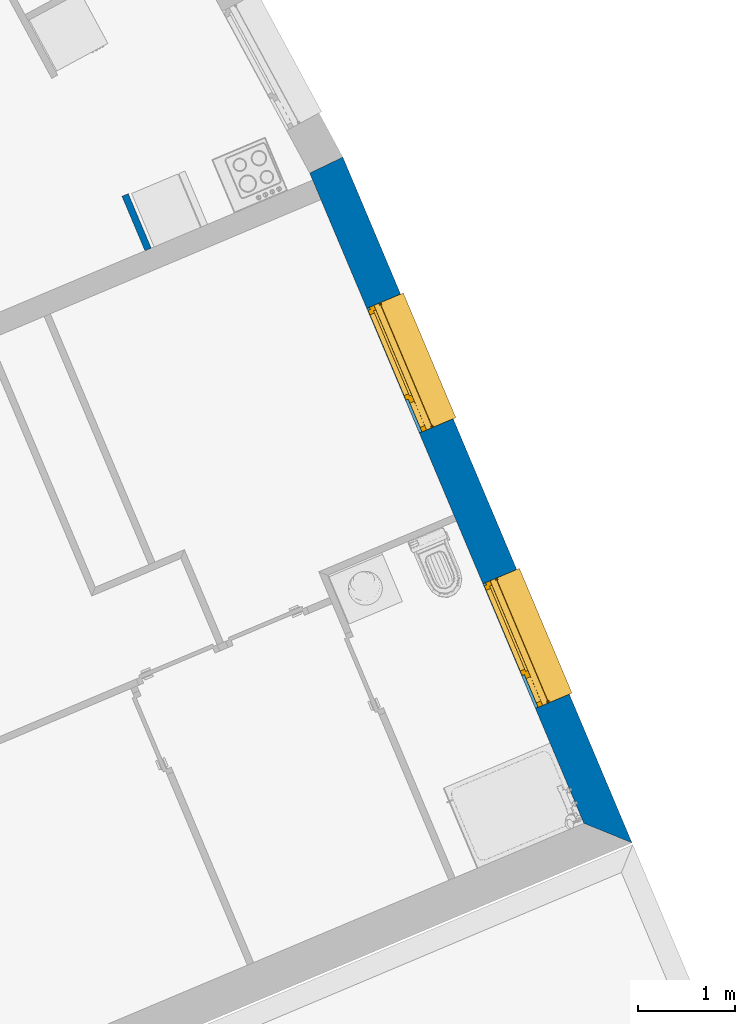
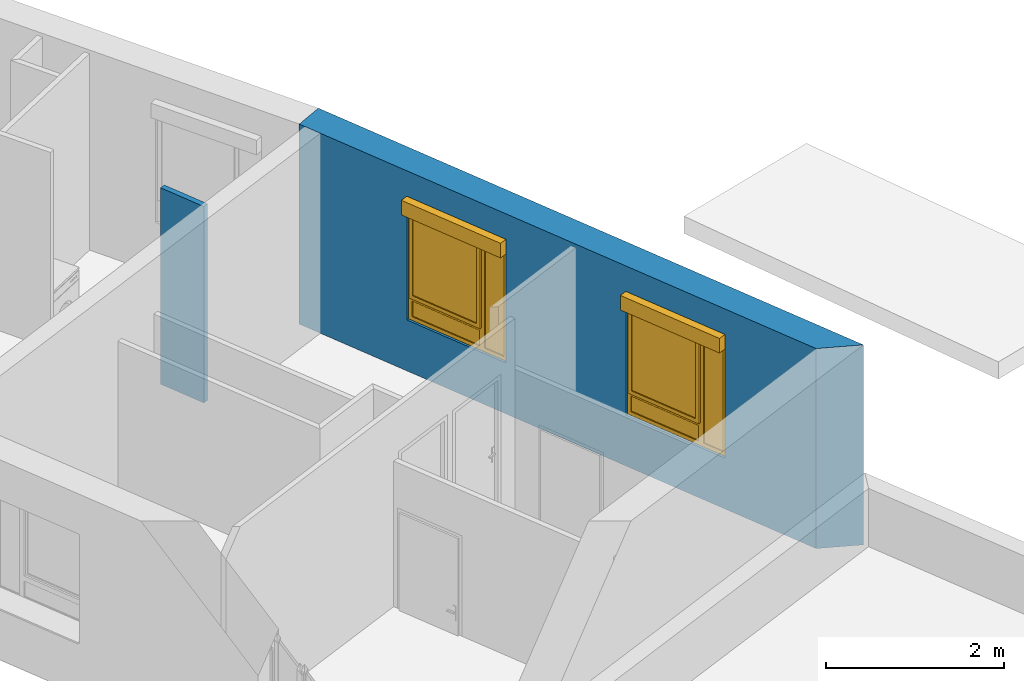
# One storey, part 55 of 121: 2 walls, 2 windows, 2 openings.
"""IFC2X3 building model written with IfcOpenShell, lengths in metres."""

from ifc_helpers import new_model, entity, si_unit, converted_unit, derived_unit, money_unit, direction, frame, origin_with_axes, place, context, subcontext, project, spatial, polyline, outline, extrude, open_shell, faceted_brep, surface_model, source, transform, mapped, material, layer, layer_set, layer_usage, type_object, element, fill, save


model = new_model("IFC2X3")

# Units and contexts
model_context = context("Model", 3, precision=1e-05, world=origin_with_axes(), true_north=direction((0.0, 1.0)))
body_context = subcontext(model_context, "Body", "Model", "MODEL_VIEW")
ifc_project = project(units=[si_unit("LENGTHUNIT", "METRE"), si_unit("AREAUNIT", "SQUARE_METRE"), si_unit("VOLUMEUNIT", "CUBIC_METRE"), converted_unit("PLANEANGLEUNIT", "DEGREE", entity("IfcPlaneAngleMeasure", 0.0174532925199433), si_unit("PLANEANGLEUNIT", "RADIAN"), dimensions=[0, 0, 0, 0, 0, 0, 0]), money_unit("CHF"), converted_unit("TIMEUNIT", "Year", entity("IfcTimeMeasure", 31557600.0), si_unit("TIMEUNIT", "SECOND"), dimensions=[0, 0, 1, 0, 0, 0, 0]), si_unit("MASSUNIT", "GRAM", prefix="KILO"), si_unit("THERMODYNAMICTEMPERATUREUNIT", "DEGREE_CELSIUS"), si_unit("LUMINOUSINTENSITYUNIT", "LUMEN"), si_unit("ENERGYUNIT", "JOULE", prefix="MEGA"), derived_unit("THERMALCONDUCTANCEUNIT", [(si_unit("POWERUNIT", "WATT"), 1), (si_unit("LENGTHUNIT", "METRE"), -1), (si_unit("THERMODYNAMICTEMPERATUREUNIT", "KELVIN"), -1)]), derived_unit("SPECIFICHEATCAPACITYUNIT", [(si_unit("ENERGYUNIT", "JOULE"), 1), (si_unit("MASSUNIT", "GRAM", prefix="KILO"), -1), (si_unit("THERMODYNAMICTEMPERATUREUNIT", "KELVIN"), -1)]), derived_unit("MASSDENSITYUNIT", [(si_unit("MASSUNIT", "GRAM", prefix="KILO"), 1), (si_unit("VOLUMEUNIT", "CUBIC_METRE"), -1)])], contexts=[model_context])

# Site, building, storey
site_placement = place(None, origin_with_axes())
site = spatial("IfcSite", under=ifc_project, at=site_placement, Name="Site", CompositionType="ELEMENT")
building_placement = place(site_placement, origin_with_axes())
building = spatial("IfcBuilding", under=site, at=building_placement, Name="Bâtiment", CompositionType="ELEMENT")
storey_placement = place(building_placement, frame((0.0, 0.0, 2.75), z_axis=(0.0, 0.0, 1.0), x_axis=(1.0, 0.0, 0.0)))
storey = spatial("IfcBuildingStorey", under=building, at=storey_placement, Name="Etage 1", CompositionType="ELEMENT", Elevation=2.75)

# Wall
ifc_material_1 = material(Name="Hachure solide 268963992")
ifc_layer_1 = layer(ifc_material_1, 0.07, ventilated="UNKNOWN")
ifc_layer_set_1 = layer_set([ifc_layer_1], Name="Cloison 70 0826278243")
ifc_layer_usage_1 = layer_usage(ifc_layer_set_1, "AXIS2", "NEGATIVE", 0.0)
wall_type_1 = type_object("IfcWallType", Name="Cloison 70 0826278243 70", PredefinedType="NOTDEFINED")
wall_1_placement = place(storey_placement, frame((9565.134494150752, -1035.62117375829, 57.7), z_axis=(0.0, 0.0, 1.0), x_axis=(0.3885669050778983, -0.9214205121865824, 0.0)))
element("IfcWallStandardCase", 1, at=wall_1_placement, inside=storey, type_object=wall_type_1, material=ifc_layer_usage_1, Name="Mur-149", context=body_context, shape_type="SweptSolid", body=[
    extrude(outline(polyline([(0.0, -0.06999999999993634), (0.6120429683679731, -0.06999999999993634), (0.6120429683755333, 0.0), (0.0, 0.0), (0.0, -0.06999999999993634)])), origin_with_axes(), (0.0, 0.0, 1.0), 2.7),
])

# Wall, openings, windows
ifc_material_2 = material(Name="Parpaing 312445824")
ifc_layer_2 = layer(ifc_material_2, 0.22, ventilated="UNKNOWN")
ifc_material_3 = material(Name="Isolant styromousse 301821074")
ifc_layer_3 = layer(ifc_material_3, 0.16, ventilated="UNKNOWN")
ifc_layer_set_2 = layer_set([ifc_layer_2, ifc_layer_3], Name="isol int 22+16 0836643197")
ifc_layer_usage_2 = layer_usage(ifc_layer_set_2, "AXIS2", "NEGATIVE", 0.0)
wall_type_2 = type_object("IfcWallType", Name="isol int 22+16 0836643197 380", PredefinedType="NOTDEFINED")
wall_2_placement = place(storey_placement, frame((9567.355218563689, -1035.243268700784, 57.7), z_axis=(0.0, 0.0, 1.0), x_axis=(0.3885669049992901, -0.9214205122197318, 0.0)))
wall_2 = element("IfcWallStandardCase", 2, at=wall_2_placement, inside=storey, type_object=wall_type_2, material=ifc_layer_usage_2, Name="Mur-113", context=body_context, shape_type="SweptSolid", body=[
    extrude(outline(polyline([(0.01830169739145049, -0.3799999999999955), (7.320677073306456, -0.3799999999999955), (7.700677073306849, 0.0), (0.0, 0.0), (0.01830169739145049, -0.3799999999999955)])), origin_with_axes(), (0.0, 0.0, 1.0), 2.75),
])
opening_1_placement = place(wall_2_placement, frame((2.238127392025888, 0.0, 0.7000000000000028), z_axis=(0.0, 0.0, 1.0), x_axis=(1.0, 0.0, 0.0)))
opening_1 = element("IfcOpeningElement", 3, at=opening_1_placement, cuts=wall_2, Name="Fen-045", context=body_context, shape_type="Brep", body=[
    faceted_brep([(-0.6999999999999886, -0.2199999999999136, 1.5), (0.7000000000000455, -0.2199999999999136, 1.5), (0.7000000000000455, 2.758100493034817, 1.5), (-0.6999999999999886, 2.758100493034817, 1.5), (-0.6999999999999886, -0.2199999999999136, 1.700000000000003), (0.7000000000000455, -0.2199999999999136, 1.700000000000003), (0.6999999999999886, -0.3000000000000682, 1.5), (0.6999999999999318, -0.3000000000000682, 0.0), (0.7000000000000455, 2.758100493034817, 0.0), (-0.6999999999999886, 2.758100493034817, 0.0), (-0.6999999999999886, -0.2999999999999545, 1.5), (-0.6999999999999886, -0.2999999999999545, 0.0), (-0.7000000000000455, -0.4799999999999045, 1.5), (-0.7000000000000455, -0.4799999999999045, 1.700000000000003), (0.6999999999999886, -0.4799999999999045, 1.700000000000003), (0.6999999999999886, -0.4799999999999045, 1.5), (0.6999999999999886, -3.138100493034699, 1.5), (0.6999999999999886, -3.138100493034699, 0.0), (-0.6999999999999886, -3.138100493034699, 0.0), (-0.6999999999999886, -3.138100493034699, 1.5)], [[[0, 1, 2, 3]], [[1, 0, 4, 5]], [[1, 6, 7, 8, 2]], [[2, 8, 9, 3]], [[10, 0, 3, 9, 11]], [[0, 10, 12, 13, 4]], [[14, 5, 4, 13]], [[6, 1, 5, 14, 15]], [[6, 15, 16, 17, 7]], [[7, 11, 9, 8]], [[12, 10, 11, 18, 19]], [[12, 15, 14, 13]], [[15, 12, 19, 16]], [[19, 18, 17, 16]], [[11, 7, 17, 18]]]),
])
opening_2_placement = place(wall_2_placement, frame((5.33116423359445, 0.0, 0.7000000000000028), z_axis=(0.0, 0.0, 1.0), x_axis=(1.0, 0.0, 0.0)))
opening_2 = element("IfcOpeningElement", 4, at=opening_2_placement, cuts=wall_2, Name="Fen-045", context=body_context, shape_type="Brep", body=[
    faceted_brep([(-0.6999999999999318, -0.2199999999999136, 1.5), (0.6999999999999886, -0.2199999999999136, 1.5), (0.7000000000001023, 2.758100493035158, 1.5), (-0.6999999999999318, 2.758100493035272, 1.5), (-0.6999999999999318, -0.2199999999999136, 1.700000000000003), (0.6999999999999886, -0.2199999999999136, 1.700000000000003), (0.6999999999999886, -0.2999999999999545, 1.5), (0.6999999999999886, -0.2999999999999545, 0.0), (0.7000000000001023, 2.758100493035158, 0.0), (-0.6999999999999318, 2.758100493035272, 0.0), (-0.6999999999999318, -0.2999999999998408, 1.5), (-0.6999999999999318, -0.2999999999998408, 0.0), (-0.6999999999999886, -0.4799999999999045, 1.5), (-0.6999999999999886, -0.4799999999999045, 1.700000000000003), (0.6999999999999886, -0.4800000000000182, 1.700000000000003), (0.6999999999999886, -0.4800000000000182, 1.5), (0.6999999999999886, -3.138100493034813, 1.5), (0.6999999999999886, -3.138100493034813, 0.0), (-0.6999999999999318, -3.138100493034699, 0.0), (-0.6999999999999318, -3.138100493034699, 1.5)], [[[0, 1, 2, 3]], [[1, 0, 4, 5]], [[1, 6, 7, 8, 2]], [[2, 8, 9, 3]], [[10, 0, 3, 9, 11]], [[0, 10, 12, 13, 4]], [[14, 5, 4, 13]], [[6, 1, 5, 14, 15]], [[6, 15, 16, 17, 7]], [[7, 11, 9, 8]], [[12, 10, 11, 18, 19]], [[12, 15, 14, 13]], [[15, 12, 19, 16]], [[19, 18, 17, 16]], [[11, 7, 17, 18]]]),
])
window_style = type_object("IfcWindowStyle", Name="Fenêtre variable 27", ConstructionType="NOTDEFINED", OperationType="TRIPLE_PANEL_LEFT", ParameterTakesPrecedence=False, Sizeable=False)
shared_shape = source(origin_with_axes(), body_context, "Body", "SurfaceModel", [
    surface_model("IfcShellBasedSurfaceModel", [(0.7, -0.05100000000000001, 0.05), (-0.7, -0.05100000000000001, 0.05000000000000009), (-0.7, -0.05100000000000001, 0.04000000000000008), (0.7, -0.05100000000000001, 0.04), (-0.7, -0.3799999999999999, 0.02900000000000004), (0.7, -0.3799999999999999, 0.02899999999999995), (-0.7, -0.3799999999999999, 0.00900000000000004), (0.7, -0.3799999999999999, 0.008999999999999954), (-0.7, -0.3699999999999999, 0.01900000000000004), (0.7, -0.3699999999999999, 0.01899999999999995)], [open_shell([[[0, 1, 2, 3]], [[3, 2, 4, 5]], [[5, 4, 6, 7]], [[7, 6, 8, 9]]])]),
    faceted_brep([(0.7, -0.13, 1.7), (0.7, 0.13, 1.7), (0.697, 0.13, 1.7), (0.697, -0.13, 1.7), (0.7, -0.13, 1.5), (0.7, 0.13, 1.5), (0.697, 0.13, 1.5), (0.697, -0.13, 1.5)], [[[0, 1, 2, 3]], [[0, 4, 5, 1]], [[1, 5, 6, 2]], [[3, 2, 6, 7]], [[4, 0, 3, 7]], [[5, 4, 7, 6]]]),
    faceted_brep([(-0.6970000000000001, -0.1299999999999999, 1.7), (-0.6970000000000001, 0.1300000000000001, 1.7), (-0.7000000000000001, 0.1300000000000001, 1.7), (-0.7000000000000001, -0.1299999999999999, 1.7), (-0.6970000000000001, -0.1299999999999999, 1.5), (-0.6970000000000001, 0.1300000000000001, 1.5), (-0.7000000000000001, 0.1300000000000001, 1.5), (-0.7000000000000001, -0.1299999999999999, 1.5)], [[[0, 1, 2, 3]], [[0, 4, 5, 1]], [[1, 5, 6, 2]], [[3, 2, 6, 7]], [[4, 0, 3, 7]], [[5, 4, 7, 6]]]),
    faceted_brep([(0.697, -0.13, 1.5), (0.697, -0.13, 1.7), (-0.697, -0.1299999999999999, 1.7), (-0.697, -0.1299999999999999, 1.5), (0.697, -0.127, 1.5), (0.697, -0.127, 1.697), (0.697, 0.127, 1.697), (0.697, 0.127, 1.503), (0.697, -0.108, 1.503), (0.697, -0.108, 1.5), (0.697, 0.13, 1.5), (0.697, 0.13, 1.7), (-0.697, 0.1300000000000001, 1.7), (-0.697, 0.1300000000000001, 1.5), (-0.697, -0.1079999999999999, 1.5), (-0.697, -0.1079999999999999, 1.503), (-0.697, 0.1270000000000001, 1.503), (-0.697, 0.1270000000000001, 1.697), (-0.697, -0.1269999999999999, 1.697), (-0.697, -0.1269999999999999, 1.5)], [[[0, 1, 2, 3]], [[0, 4, 5, 6, 7, 8, 9, 10, 11, 1]], [[1, 11, 12, 2]], [[3, 2, 12, 13, 14, 15, 16, 17, 18, 19]], [[4, 0, 3, 19]], [[5, 4, 19, 18]], [[6, 5, 18, 17]], [[7, 6, 17, 16]], [[8, 7, 16, 15]], [[9, 8, 15, 14]], [[10, 9, 14, 13]], [[11, 10, 13, 12]]]),
    faceted_brep([(0.694, -0.08075423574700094, 1.585760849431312), (0.694, -0.07705479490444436, 1.571954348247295), (0.694, -0.07101408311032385, 1.559), (0.694, -0.06281564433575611, 1.547291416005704), (0.694, -0.05270858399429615, 1.537184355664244), (0.694, -0.04099999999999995, 1.528985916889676), (0.694, -0.02804565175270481, 1.522945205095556), (0.694, -0.01423915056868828, 1.519245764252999), (0.694, 0.0, 1.518), (0.694, 0.01423915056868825, 1.519245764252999), (0.694, 0.02804565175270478, 1.522945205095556), (0.694, 0.04099999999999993, 1.528985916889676), (0.694, 0.05270858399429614, 1.537184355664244), (0.694, 0.06281564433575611, 1.547291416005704), (0.694, 0.07101408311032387, 1.559), (0.694, 0.07705479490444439, 1.571954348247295), (0.694, 0.08075423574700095, 1.585760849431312), (0.694, 0.0819999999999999, 1.6), (0.694, 0.08075423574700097, 1.614239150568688), (0.694, 0.0770547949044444, 1.628045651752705), (0.694, 0.07101408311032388, 1.641), (0.694, 0.06281564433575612, 1.652708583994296), (0.694, 0.05270858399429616, 1.662815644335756), (0.694, 0.04099999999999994, 1.671014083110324), (0.694, 0.02804565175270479, 1.677054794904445), (0.694, 0.01423915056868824, 1.680754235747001), (0.694, 0.0, 1.682), (0.694, -0.01423915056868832, 1.680754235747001), (0.694, -0.02804565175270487, 1.677054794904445), (0.694, -0.04100000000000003, 1.671014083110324), (0.694, -0.05270858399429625, 1.662815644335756), (0.694, -0.06281564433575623, 1.652708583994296), (0.694, -0.07101408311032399, 1.641), (0.694, -0.07705479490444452, 1.628045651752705), (0.694, -0.0807542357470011, 1.614239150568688), (0.694, -0.08200000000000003, 1.6), (-0.694, -0.08075423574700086, 1.585760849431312), (-0.694, -0.07705479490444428, 1.571954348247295), (-0.694, -0.07101408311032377, 1.559), (-0.694, -0.06281564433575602, 1.547291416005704), (-0.694, -0.05270858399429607, 1.537184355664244), (-0.694, -0.04099999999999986, 1.528985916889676), (-0.694, -0.02804565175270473, 1.522945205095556), (-0.694, -0.0142391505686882, 1.519245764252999), (-0.694, 0.0, 1.518), (-0.694, 0.01423915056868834, 1.519245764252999), (-0.694, 0.02804565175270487, 1.522945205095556), (-0.694, 0.04100000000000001, 1.528985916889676), (-0.694, 0.05270858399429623, 1.537184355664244), (-0.694, 0.06281564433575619, 1.547291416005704), (-0.694, 0.07101408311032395, 1.559), (-0.694, 0.07705479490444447, 1.571954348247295), (-0.694, 0.08075423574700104, 1.585760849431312), (-0.694, 0.08199999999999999, 1.6), (-0.694, 0.08075423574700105, 1.614239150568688), (-0.694, 0.07705479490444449, 1.628045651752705), (-0.694, 0.07101408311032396, 1.641), (-0.694, 0.0628156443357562, 1.652708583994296), (-0.694, 0.05270858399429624, 1.662815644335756), (-0.694, 0.04100000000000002, 1.671014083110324), (-0.694, 0.02804565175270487, 1.677054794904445), (-0.694, 0.01423915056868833, 1.680754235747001), (-0.694, 0.0, 1.682), (-0.694, -0.01423915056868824, 1.680754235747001), (-0.694, -0.02804565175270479, 1.677054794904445), (-0.694, -0.04099999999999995, 1.671014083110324), (-0.694, -0.05270858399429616, 1.662815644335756), (-0.694, -0.06281564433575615, 1.652708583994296), (-0.694, -0.07101408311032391, 1.641), (-0.694, -0.07705479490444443, 1.628045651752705), (-0.694, -0.08075423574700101, 1.614239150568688), (-0.694, -0.08199999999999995, 1.6)], [[[0, 1, 2, 3, 4, 5, 6, 7, 8, 9, 10, 11, 12, 13, 14, 15, 16, 17, 18, 19, 20, 21, 22, 23, 24, 25, 26, 27, 28, 29, 30, 31, 32, 33, 34, 35]], [[1, 0, 36, 37]], [[2, 1, 37, 38]], [[3, 2, 38, 39]], [[4, 3, 39, 40]], [[5, 4, 40, 41]], [[6, 5, 41, 42]], [[7, 6, 42, 43]], [[8, 7, 43, 44]], [[9, 8, 44, 45]], [[10, 9, 45, 46]], [[11, 10, 46, 47]], [[12, 11, 47, 48]], [[13, 12, 48, 49]], [[14, 13, 49, 50]], [[15, 14, 50, 51]], [[16, 15, 51, 52]], [[17, 16, 52, 53]], [[18, 17, 53, 54]], [[19, 18, 54, 55]], [[20, 19, 55, 56]], [[21, 20, 56, 57]], [[22, 21, 57, 58]], [[23, 22, 58, 59]], [[24, 23, 59, 60]], [[25, 24, 60, 61]], [[26, 25, 61, 62]], [[27, 26, 62, 63]], [[28, 27, 63, 64]], [[29, 28, 64, 65]], [[30, 29, 65, 66]], [[31, 30, 66, 67]], [[32, 31, 67, 68]], [[33, 32, 68, 69]], [[34, 33, 69, 70]], [[35, 34, 70, 71]], [[0, 35, 71, 36]], [[36, 71, 70, 69, 68, 67, 66, 65, 64, 63, 62, 61, 60, 59, 58, 57, 56, 55, 54, 53, 52, 51, 50, 49, 48, 47, 46, 45, 44, 43, 42, 41, 40, 39, 38, 37]]]),
    faceted_brep([(-0.7, -0.105, 0.03), (-0.7, -0.13, 0.03), (-0.7, -0.1299999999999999, 1.5), (-0.7, -0.1049999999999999, 1.5), (-0.6749999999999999, -0.105, 0.03), (-0.6749999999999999, -0.108, 0.03), (-0.697, -0.108, 0.03), (-0.697, -0.127, 0.03), (-0.6749999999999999, -0.127, 0.03), (-0.6749999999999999, -0.13, 0.03), (-0.6749999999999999, -0.1299999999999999, 1.5), (-0.6749999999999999, -0.1269999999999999, 1.5), (-0.697, -0.1269999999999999, 1.5), (-0.697, -0.1079999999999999, 1.5), (-0.6749999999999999, -0.1079999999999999, 1.5), (-0.6749999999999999, -0.1049999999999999, 1.5)], [[[0, 1, 2, 3]], [[0, 4, 5, 6, 7, 8, 9, 1]], [[1, 9, 10, 2]], [[3, 2, 10, 11, 12, 13, 14, 15]], [[4, 0, 3, 15]], [[5, 4, 15, 14]], [[6, 5, 14, 13]], [[7, 6, 13, 12]], [[8, 7, 12, 11]], [[9, 8, 11, 10]]]),
    faceted_brep([(0.7, -0.105, 0.03), (0.7, -0.1049999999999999, 1.5), (0.7, -0.1299999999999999, 1.5), (0.7, -0.13, 0.03), (0.6749999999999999, -0.105, 0.03), (0.6749999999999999, -0.1049999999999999, 1.5), (0.6749999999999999, -0.1079999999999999, 1.5), (0.697, -0.1079999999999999, 1.5), (0.697, -0.1269999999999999, 1.5), (0.6749999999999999, -0.1269999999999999, 1.5), (0.6749999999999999, -0.1299999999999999, 1.5), (0.6749999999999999, -0.13, 0.03), (0.6749999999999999, -0.127, 0.03), (0.697, -0.127, 0.03), (0.697, -0.108, 0.03), (0.6749999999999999, -0.108, 0.03)], [[[0, 1, 2, 3]], [[4, 5, 1, 0]], [[1, 5, 6, 7, 8, 9, 10, 2]], [[3, 2, 10, 11]], [[0, 3, 11, 12, 13, 14, 15, 4]], [[15, 6, 5, 4]], [[14, 7, 6, 15]], [[13, 8, 7, 14]], [[12, 9, 8, 13]], [[11, 10, 9, 12]]]),
    surface_model("IfcShellBasedSurfaceModel", [(0.697, -0.115, 1.6), (-0.697, -0.1149999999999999, 1.6), (-0.697, -0.12, 1.6), (0.697, -0.12, 1.6), (0.697, -0.115, 1.6), (0.697, -0.12, 1.6), (-0.697, -0.1199999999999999, 1.6), (-0.697, -0.1149999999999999, 1.6)], [open_shell([[[0, 1, 2, 3]], [[4, 5, 6, 7]]])]),
    faceted_brep([(0.697, -0.115, 1.6), (0.697, -0.1166666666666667, 1.583333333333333), (-0.697, -0.1166666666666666, 1.583333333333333), (-0.697, -0.1149999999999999, 1.6), (0.697, -0.12, 1.6), (0.697, -0.1216666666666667, 1.583333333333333), (0.697, -0.1216666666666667, 1.566666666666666), (0.697, -0.12, 1.55), (0.697, -0.115, 1.55), (0.697, -0.1166666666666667, 1.566666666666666), (-0.697, -0.1166666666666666, 1.566666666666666), (-0.697, -0.1149999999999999, 1.55), (-0.697, -0.1199999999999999, 1.55), (-0.697, -0.1216666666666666, 1.566666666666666), (-0.697, -0.1216666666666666, 1.583333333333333), (-0.697, -0.1199999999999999, 1.6)], [[[0, 1, 2, 3]], [[0, 4, 5, 6, 7, 8, 9, 1]], [[1, 9, 10, 2]], [[3, 2, 10, 11, 12, 13, 14, 15]], [[4, 0, 3, 15]], [[5, 4, 15, 14]], [[6, 5, 14, 13]], [[7, 6, 13, 12]], [[8, 7, 12, 11]], [[9, 8, 11, 10]]]),
    faceted_brep([(0.697, -0.115, 1.55), (0.697, -0.1166666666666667, 1.533333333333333), (-0.697, -0.1166666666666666, 1.533333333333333), (-0.697, -0.1149999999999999, 1.55), (0.697, -0.12, 1.55), (0.697, -0.1216666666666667, 1.533333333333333), (0.697, -0.1216666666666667, 1.516666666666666), (0.697, -0.12, 1.5), (0.697, -0.115, 1.5), (0.697, -0.1166666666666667, 1.516666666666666), (-0.697, -0.1166666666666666, 1.516666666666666), (-0.697, -0.1149999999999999, 1.5), (-0.697, -0.1199999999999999, 1.5), (-0.697, -0.1216666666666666, 1.516666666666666), (-0.697, -0.1216666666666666, 1.533333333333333), (-0.697, -0.1199999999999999, 1.55)], [[[0, 1, 2, 3]], [[0, 4, 5, 6, 7, 8, 9, 1]], [[1, 9, 10, 2]], [[3, 2, 10, 11, 12, 13, 14, 15]], [[4, 0, 3, 15]], [[5, 4, 15, 14]], [[6, 5, 14, 13]], [[7, 6, 13, 12]], [[8, 7, 12, 11]], [[9, 8, 11, 10]]]),
    faceted_brep([(0.6749999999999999, 0.0, 1.45), (0.6749999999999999, -0.02500000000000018, 1.45), (0.6499999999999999, -0.02500000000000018, 1.45), (0.6499999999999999, -0.05000000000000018, 1.45), (0.7, -0.05000000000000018, 1.45), (0.7, 0.0, 1.45), (0.6749999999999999, 0.0, 0.3099999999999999), (0.6749999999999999, -0.02500000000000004, 0.3099999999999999), (0.6499999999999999, -0.02500000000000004, 0.335), (0.6499999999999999, -0.02500000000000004, 0.3099999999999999), (0.6499999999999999, -0.05000000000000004, 0.335), (0.6499999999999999, -0.05000000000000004, 0.265), (0.6499999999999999, -0.05000000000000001, 0.05000000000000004), (0.7, -0.05000000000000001, 0.05000000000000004), (0.7, 0.0, 0.05000000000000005), (0.6499999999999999, 0.0, 0.05000000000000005), (0.6499999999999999, 0.0, 0.265), (0.6499999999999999, 0.0, 0.3099999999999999)], [[[0, 1, 2, 3, 4, 5]], [[1, 0, 6, 7]], [[8, 2, 1, 7, 9]], [[2, 8, 10, 3]], [[10, 11, 12, 13, 4, 3]], [[5, 4, 13, 14]], [[6, 0, 5, 14, 15, 16, 17]], [[6, 17, 9, 7]], [[9, 17, 16, 11, 10, 8]], [[15, 12, 11, 16]], [[14, 13, 12, 15]]]),
    faceted_brep([(-0.3068894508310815, -0.02500000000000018, 1.45), (-0.3318894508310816, -0.02500000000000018, 1.45), (-0.3318894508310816, 0.0, 1.45), (-0.3768894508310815, 0.0, 1.45), (-0.3768894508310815, -0.05000000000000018, 1.45), (-0.3068894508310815, -0.05000000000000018, 1.45), (-0.3068894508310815, -0.02500000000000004, 0.335), (-0.3068894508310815, -0.02500000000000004, 0.3099999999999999), (-0.3318894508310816, -0.02500000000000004, 0.3099999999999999), (-0.3318894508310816, 0.0, 0.3099999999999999), (-0.3068894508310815, 0.0, 0.3099999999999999), (-0.3068894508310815, 0.0, 0.265), (-0.3068894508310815, 0.0, 0.05000000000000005), (-0.3768894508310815, 0.0, 0.05000000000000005), (-0.3768894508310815, -0.05000000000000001, 0.05000000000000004), (-0.3068894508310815, -0.05000000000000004, 0.265), (-0.3068894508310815, -0.05000000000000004, 0.335), (-0.3068894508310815, -0.05000000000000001, 0.05000000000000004)], [[[0, 1, 2, 3, 4, 5]], [[1, 0, 6, 7, 8]], [[9, 2, 1, 8]], [[9, 10, 11, 12, 13, 3, 2]], [[13, 14, 4, 3]], [[15, 16, 5, 4, 14, 17]], [[6, 0, 5, 16]], [[7, 6, 16, 15, 11, 10]], [[10, 9, 8, 7]], [[11, 15, 17, 12]], [[12, 17, 14, 13]]]),
    faceted_brep([(0.6499999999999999, -0.02500000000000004, 0.335), (-0.3068894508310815, -0.02500000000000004, 0.335), (-0.3068894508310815, -0.05000000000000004, 0.335), (0.6499999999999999, -0.05000000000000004, 0.335), (-0.3068894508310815, -0.02500000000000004, 0.3099999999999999), (0.6499999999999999, -0.02500000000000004, 0.3099999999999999), (-0.3068894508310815, 0.0, 0.3099999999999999), (-0.3068894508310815, 0.0, 0.265), (-0.3068894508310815, -0.05000000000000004, 0.265), (0.6499999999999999, -0.05000000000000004, 0.265), (0.6499999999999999, 0.0, 0.265), (0.6499999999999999, 0.0, 0.3099999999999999)], [[[0, 1, 2, 3]], [[4, 1, 0, 5]], [[4, 6, 7, 8, 2, 1]], [[2, 8, 9, 3]], [[5, 0, 3, 9, 10, 11]], [[11, 6, 4, 5]], [[6, 11, 10, 7]], [[10, 9, 8, 7]]]),
    faceted_brep([(0.6749999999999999, 0.0, 1.45), (0.6749999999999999, 0.0, 1.475), (-0.3318894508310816, 0.0, 1.475), (-0.3318894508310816, 0.0, 1.45), (-0.3768894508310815, 0.0, 1.45), (-0.6499999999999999, 0.0, 1.45), (-0.7, 0.0, 1.45), (-0.7, 0.0, 1.5), (0.7, 0.0, 1.5), (0.7, 0.0, 1.45), (0.6749999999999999, -0.02500000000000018, 1.45), (0.6749999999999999, -0.02500000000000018, 1.475), (-0.3318894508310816, -0.02500000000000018, 1.475), (-0.3318894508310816, -0.02500000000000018, 1.45), (-0.3068894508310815, -0.02500000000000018, 1.45), (-0.3068894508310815, -0.05000000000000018, 1.45), (-0.3768894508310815, -0.05000000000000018, 1.45), (-0.6499999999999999, -0.05000000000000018, 1.45), (-0.7, -0.05000000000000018, 1.45), (-0.7, -0.05000000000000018, 1.5), (0.7, -0.05000000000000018, 1.5), (0.7, -0.05000000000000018, 1.45), (0.6499999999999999, -0.05000000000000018, 1.45), (0.6499999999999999, -0.02500000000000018, 1.45)], [[[0, 1, 2, 3, 4, 5, 6, 7, 8, 9]], [[1, 0, 10, 11]], [[2, 1, 11, 12]], [[3, 2, 12, 13]], [[13, 14, 15, 16, 4, 3]], [[4, 16, 17, 5]], [[5, 17, 18, 6]], [[6, 18, 19, 7]], [[7, 19, 20, 8]], [[8, 20, 21, 9]], [[10, 0, 9, 21, 22, 23]], [[14, 13, 12, 11, 10, 23]], [[14, 23, 22, 15]], [[16, 15, 22, 21, 20, 19, 18, 17]]]),
    faceted_brep([(-0.6499999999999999, -0.05000000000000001, 0.05), (-0.7, -0.05000000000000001, 0.05), (-0.7, 0.0, 0.05000000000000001), (-0.6499999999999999, 0.0, 0.05000000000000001), (-0.6499999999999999, -0.05000000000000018, 1.45), (-0.7, -0.05000000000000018, 1.45), (-0.7, 0.0, 1.45), (-0.6499999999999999, 0.0, 1.45)], [[[0, 1, 2, 3]], [[0, 4, 5, 1]], [[1, 5, 6, 2]], [[3, 2, 6, 7]], [[4, 0, 3, 7]], [[5, 4, 7, 6]]]),
    faceted_brep([(0.6499999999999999, -0.05000000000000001, 0.05), (0.7, -0.05000000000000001, 0.05), (0.7, 0.0, 0.05000000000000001), (0.6499999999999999, 0.0, 0.05000000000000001), (-0.3068894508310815, -0.05000000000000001, 0.05), (-0.3768894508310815, -0.05000000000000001, 0.05), (-0.6499999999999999, -0.05000000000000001, 0.05), (-0.7, -0.05000000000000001, 0.05), (-0.7, -0.05, 0.0), (0.7, -0.05, 0.0), (0.7, 0.0, 0.0), (-0.7, 0.0, 0.0), (-0.7, 0.0, 0.05000000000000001), (-0.6499999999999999, 0.0, 0.05000000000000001), (-0.3768894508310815, 0.0, 0.05000000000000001), (-0.3068894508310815, 0.0, 0.05000000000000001)], [[[0, 1, 2, 3]], [[0, 4, 5, 6, 7, 8, 9, 1]], [[1, 9, 10, 2]], [[3, 2, 10, 11, 12, 13, 14, 15]], [[4, 0, 3, 15]], [[5, 4, 15, 14]], [[6, 5, 14, 13]], [[7, 6, 13, 12]], [[8, 7, 12, 11]], [[9, 8, 11, 10]]]),
    faceted_brep([(0.625, -0.02500000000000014, 1.425), (0.6749999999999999, -0.02500000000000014, 1.425), (0.6749999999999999, 0.02499999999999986, 1.425), (0.625, 0.02499999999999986, 1.425), (0.625, -0.02500000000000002, 0.3599999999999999), (0.6749999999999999, -0.02500000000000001, 0.3599999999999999), (0.6749999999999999, 0.02499999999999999, 0.3599999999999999), (0.625, 0.02499999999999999, 0.3599999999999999)], [[[0, 1, 2, 3]], [[0, 4, 5, 1]], [[1, 5, 6, 2]], [[3, 2, 6, 7]], [[4, 0, 3, 7]], [[5, 4, 7, 6]]]),
    faceted_brep([(-0.2818894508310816, -0.02500000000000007, 0.3599999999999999), (-0.3318894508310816, -0.02500000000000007, 0.3599999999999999), (-0.3318894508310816, 0.02499999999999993, 0.3599999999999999), (-0.2818894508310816, 0.02499999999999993, 0.3599999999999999), (-0.2818894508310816, -0.0250000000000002, 1.425), (-0.3318894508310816, -0.0250000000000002, 1.425), (-0.3318894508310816, 0.0249999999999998, 1.425), (-0.2818894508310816, 0.0249999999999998, 1.425)], [[[0, 1, 2, 3]], [[0, 4, 5, 1]], [[1, 5, 6, 2]], [[3, 2, 6, 7]], [[4, 0, 3, 7]], [[5, 4, 7, 6]]]),
    faceted_brep([(-0.3318894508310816, -0.02500000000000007, 0.3099999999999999), (-0.3318894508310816, -0.02500000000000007, 0.3599999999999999), (-0.3318894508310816, 0.02499999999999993, 0.3599999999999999), (-0.3318894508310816, 0.02499999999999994, 0.3099999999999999), (0.6749999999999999, -0.025, 0.3099999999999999), (0.6749999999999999, -0.02500000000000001, 0.3599999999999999), (0.625, -0.02500000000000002, 0.3599999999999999), (-0.2818894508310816, -0.02500000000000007, 0.3599999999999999), (-0.2818894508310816, 0.02499999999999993, 0.3599999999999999), (0.625, 0.02499999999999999, 0.3599999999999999), (0.6749999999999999, 0.02499999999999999, 0.3599999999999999), (0.6749999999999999, 0.02499999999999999, 0.3099999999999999)], [[[0, 1, 2, 3]], [[0, 4, 5, 6, 7, 1]], [[1, 7, 8, 2]], [[3, 2, 8, 9, 10, 11]], [[4, 0, 3, 11]], [[5, 4, 11, 10]], [[6, 5, 10, 9]], [[7, 6, 9, 8]]]),
    faceted_brep([(0.6749999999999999, -0.02500000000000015, 1.475), (0.6749999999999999, -0.02500000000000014, 1.425), (0.6749999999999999, 0.02499999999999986, 1.425), (0.6749999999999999, 0.02499999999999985, 1.475), (-0.3318894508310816, -0.02500000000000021, 1.475), (-0.3318894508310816, -0.0250000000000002, 1.425), (-0.2818894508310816, -0.0250000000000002, 1.425), (0.625, -0.02500000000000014, 1.425), (0.625, 0.02499999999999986, 1.425), (-0.2818894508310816, 0.0249999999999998, 1.425), (-0.3318894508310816, 0.0249999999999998, 1.425), (-0.3318894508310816, 0.02499999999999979, 1.475)], [[[0, 1, 2, 3]], [[0, 4, 5, 6, 7, 1]], [[1, 7, 8, 2]], [[3, 2, 8, 9, 10, 11]], [[4, 0, 3, 11]], [[5, 4, 11, 10]], [[6, 5, 10, 9]], [[7, 6, 9, 8]]]),
    surface_model("IfcShellBasedSurfaceModel", [(0.625, -0.01000000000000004, 0.3599999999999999), (0.625, -0.01000000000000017, 1.425), (-0.2818894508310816, -0.01000000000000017, 1.425), (-0.2818894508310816, -0.01000000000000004, 0.3599999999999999)], [open_shell([[[0, 1, 2, 3]]])]),
    surface_model("IfcShellBasedSurfaceModel", [(0.625, 0.009999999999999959, 0.3599999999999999), (-0.2818894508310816, 0.009999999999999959, 0.3599999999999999), (-0.2818894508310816, 0.00999999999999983, 1.425), (0.625, 0.00999999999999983, 1.425)], [open_shell([[[0, 1, 2, 3]]])]),
    surface_model("IfcShellBasedSurfaceModel", [(-0.3768894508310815, -0.035, 0.05), (-0.3768894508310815, -0.03500000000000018, 1.45), (-0.65, -0.03500000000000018, 1.45), (-0.65, -0.035, 0.05)], [open_shell([[[0, 1, 2, 3]]])]),
    surface_model("IfcShellBasedSurfaceModel", [(-0.3768894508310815, -0.015, 0.05), (-0.65, -0.015, 0.05), (-0.65, -0.01500000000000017, 1.45), (-0.3768894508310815, -0.01500000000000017, 1.45)], [open_shell([[[0, 1, 2, 3]]])]),
    surface_model("IfcShellBasedSurfaceModel", [(0.6499999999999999, -0.035, 0.05), (0.6499999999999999, -0.03500000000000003, 0.265), (-0.3068894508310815, -0.03500000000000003, 0.265), (-0.3068894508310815, -0.035, 0.05)], [open_shell([[[0, 1, 2, 3]]])]),
    surface_model("IfcShellBasedSurfaceModel", [(0.6499999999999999, -0.015, 0.05), (-0.3068894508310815, -0.015, 0.05), (-0.3068894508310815, -0.01500000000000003, 0.265), (0.6499999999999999, -0.01500000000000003, 0.265)], [open_shell([[[0, 1, 2, 3]]])]),
])
window_1_placement = place(opening_1_placement, frame((0.7000000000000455, 0.0, 0.0), z_axis=(0.0, 0.0, 1.0), x_axis=(-1.0, 0.0, 0.0)))
window_1 = element("IfcWindow", 5, at=window_1_placement, inside=storey, type_object=window_style, Name="Fen-045", OverallHeight=1.5, OverallWidth=1.4, context=body_context, shape_type="MappedRepresentation", body=[
    mapped(shared_shape, transform((0.6999999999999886, 0.3499999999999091, 0.0))),
])
fill(opening_1, window_1)
window_2_placement = place(opening_2_placement, frame((0.6999999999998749, 0.0, 0.0), z_axis=(0.0, 0.0, 1.0), x_axis=(-1.0, 0.0, 0.0)))
window_2 = element("IfcWindow", 6, at=window_2_placement, inside=storey, type_object=window_style, Name="Fen-045", OverallHeight=1.5, OverallWidth=1.4, context=body_context, shape_type="MappedRepresentation", body=[
    mapped(shared_shape, transform((0.6999999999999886, 0.3500000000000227, 0.0))),
])
fill(opening_2, window_2)

save(model, "model.ifc")
